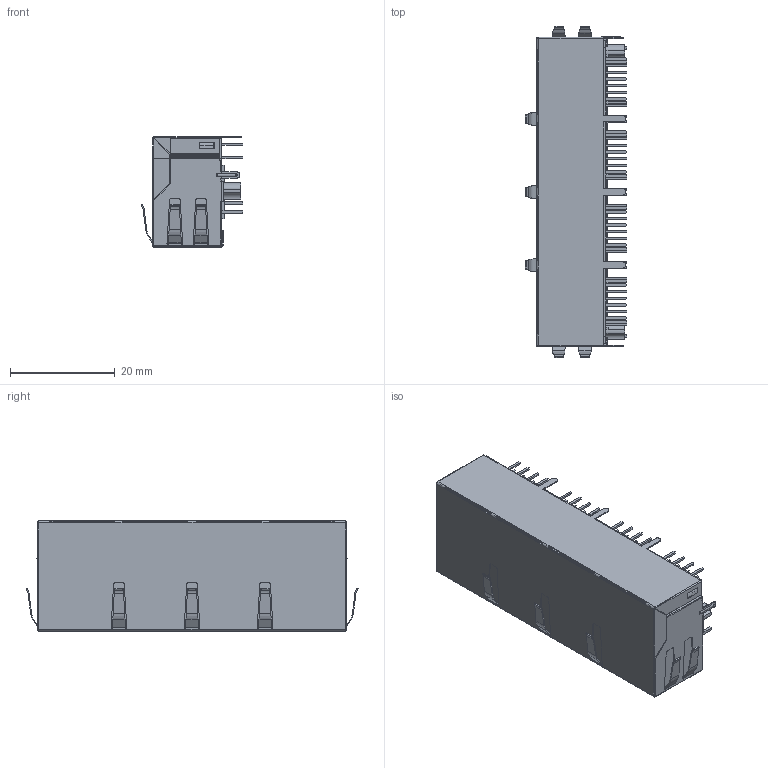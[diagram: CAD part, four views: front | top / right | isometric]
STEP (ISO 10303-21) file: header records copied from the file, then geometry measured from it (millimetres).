
FILE_DESCRIPTION((''),'2;1');
FILE_NAME('DGKYD114B083DB2A1D3','2024-02-20T17:04:50',('Administrator'),(''),'CREO PARAMETRIC BY PTC INC, 2019010','CREO PARAMETRIC BY PTC INC, 2019010','');
FILE_SCHEMA(('CONFIG_CONTROL_DESIGN'));
Products named in the file (1): DGKYD114B083DB2A1D3
Bounding box: 19.44 x 63.46 x 21.1 mm (x, y, z)
Volume: 7121.2 mm3; surface area: 23075 mm2
Topology: 1 solids, 1 shells, 4303 faces, 13109 edges, 8480 vertices
Faces by surface type: plane 3361, cylinder 882, bspline 52, sphere 8
Entity records: 147826 total; most frequent: CARTESIAN_POINT 28682, ORIENTED_EDGE 26218, DIRECTION 23439, EDGE_CURVE 13109, VECTOR 10847, LINE 10847, VERTEX_POINT 8480, AXIS2_PLACEMENT_3D 6296
